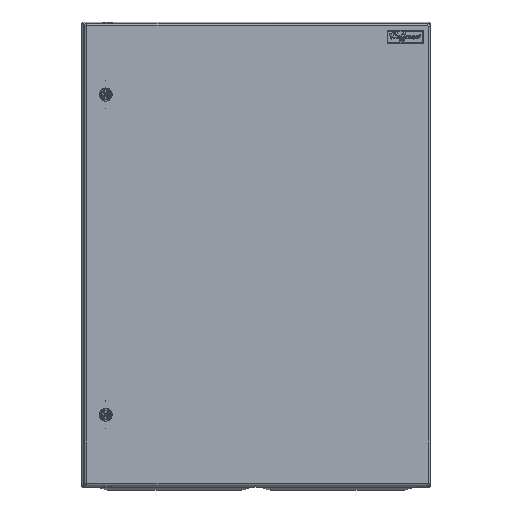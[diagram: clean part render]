
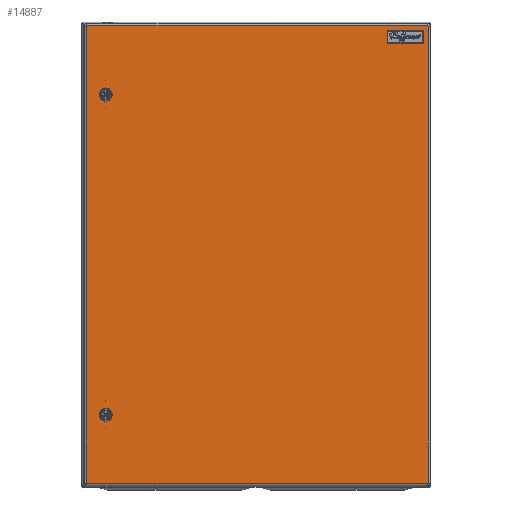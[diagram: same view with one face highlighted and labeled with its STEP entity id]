
A CAD part, top view. The second image highlights one B-rep face of the part: STEP entity #14887.
In plain terms, the highlighted planar face has unit normal (0, 0, 1).
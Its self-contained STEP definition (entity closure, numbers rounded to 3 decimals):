
#14371 = VERTEX_POINT ( 'NONE', #50379 ) ;
#14373 = EDGE_CURVE ( 'NONE', #14371, #14374, #50378, .T. ) ;
#14374 = VERTEX_POINT ( 'NONE', #50373 ) ;
#14386 = VERTEX_POINT ( 'NONE', #50414 ) ;
#14388 = EDGE_CURVE ( 'NONE', #14386, #14389, #50413, .T. ) ;
#14389 = VERTEX_POINT ( 'NONE', #50408 ) ;
#14548 = EDGE_CURVE ( 'NONE', #14549, #14593, #50713, .T. ) ;
#14549 = VERTEX_POINT ( 'NONE', #50708 ) ;
#14592 = EDGE_CURVE ( 'NONE', #14593, #14594, #50820, .T. ) ;
#14593 = VERTEX_POINT ( 'NONE', #50816 ) ;
#14594 = VERTEX_POINT ( 'NONE', #50815 ) ;
#14651 = EDGE_CURVE ( 'NONE', #14652, #14706, #50925, .T. ) ;
#14652 = VERTEX_POINT ( 'NONE', #50921 ) ;
#14672 = EDGE_CURVE ( 'NONE', #14673, #14780, #50956, .T. ) ;
#14673 = VERTEX_POINT ( 'NONE', #51018 ) ;
#14705 = EDGE_CURVE ( 'NONE', #14706, #14724, #51062, .T. ) ;
#14706 = VERTEX_POINT ( 'NONE', #51057 ) ;
#14717 = EDGE_CURVE ( 'NONE', #14594, #14673, #51120, .T. ) ;
#14723 = EDGE_CURVE ( 'NONE', #14724, #14549, #51103, .T. ) ;
#14724 = VERTEX_POINT ( 'NONE', #51099 ) ;
#14779 = EDGE_CURVE ( 'NONE', #14780, #14652, #51238, .T. ) ;
#14780 = VERTEX_POINT ( 'NONE', #51233 ) ;
#14887 = ADVANCED_FACE ( 'NONE', ( #51419, #51418, #51417 ), #51416, .T. ) ;
#14888 = EDGE_LOOP ( 'NONE', ( #14889, #14891 ) ) ;
#14889 = ORIENTED_EDGE ( 'NONE', *, *, #14890, .F. ) ;
#14890 = EDGE_CURVE ( 'NONE', #14374, #14371, #51474, .T. ) ;
#14891 = ORIENTED_EDGE ( 'NONE', *, *, #14373, .F. ) ;
#14936 = EDGE_LOOP ( 'NONE', ( #14937, #14939 ) ) ;
#14937 = ORIENTED_EDGE ( 'NONE', *, *, #14938, .F. ) ;
#14938 = EDGE_CURVE ( 'NONE', #14389, #14386, #51483, .T. ) ;
#14939 = ORIENTED_EDGE ( 'NONE', *, *, #14388, .F. ) ;
#14940 = EDGE_LOOP ( 'NONE', ( #14941, #14942, #14944, #14945, #14946, #14947, #14981, #14982 ) ) ;
#14941 = ORIENTED_EDGE ( 'NONE', *, *, #14779, .T. ) ;
#14942 = ORIENTED_EDGE ( 'NONE', *, *, #14651, .T. ) ;
#14944 = ORIENTED_EDGE ( 'NONE', *, *, #14705, .T. ) ;
#14945 = ORIENTED_EDGE ( 'NONE', *, *, #14723, .T. ) ;
#14946 = ORIENTED_EDGE ( 'NONE', *, *, #14548, .T. ) ;
#14947 = ORIENTED_EDGE ( 'NONE', *, *, #14592, .T. ) ;
#14981 = ORIENTED_EDGE ( 'NONE', *, *, #14717, .T. ) ;
#14982 = ORIENTED_EDGE ( 'NONE', *, *, #14672, .T. ) ;
#50373 = CARTESIAN_POINT ( 'NONE',  ( -249.189, -275.5, 1.397 ) ) ;
#50374 = DIRECTION ( 'NONE',  ( 1., 0., 0. ) ) ;
#50375 = DIRECTION ( 'NONE',  ( 0., 0., 1. ) ) ;
#50376 = CARTESIAN_POINT ( 'NONE',  ( -260.492, -275.5, 1.397 ) ) ;
#50377 = AXIS2_PLACEMENT_3D ( 'NONE', #50376, #50375, #50374 ) ;
#50378 = CIRCLE ( 'NONE', #50377, 11.303 ) ;
#50379 = CARTESIAN_POINT ( 'NONE',  ( -271.795, -275.5, 1.397 ) ) ;
#50408 = CARTESIAN_POINT ( 'NONE',  ( -249.189, 275.5, 1.397 ) ) ;
#50409 = DIRECTION ( 'NONE',  ( 1., 0., 0. ) ) ;
#50410 = DIRECTION ( 'NONE',  ( 0., 0., 1. ) ) ;
#50411 = CARTESIAN_POINT ( 'NONE',  ( -260.492, 275.5, 1.397 ) ) ;
#50412 = AXIS2_PLACEMENT_3D ( 'NONE', #50411, #50410, #50409 ) ;
#50413 = CIRCLE ( 'NONE', #50412, 11.303 ) ;
#50414 = CARTESIAN_POINT ( 'NONE',  ( -271.795, 275.5, 1.397 ) ) ;
#50708 = CARTESIAN_POINT ( 'NONE',  ( 292.992, -394.071, 1.397 ) ) ;
#50709 = DIRECTION ( 'NONE',  ( 1., 0., 0. ) ) ;
#50710 = DIRECTION ( 'NONE',  ( 0., 0., 1. ) ) ;
#50711 = CARTESIAN_POINT ( 'NONE',  ( 292.992, -392.992, 1.397 ) ) ;
#50712 = AXIS2_PLACEMENT_3D ( 'NONE', #50711, #50710, #50709 ) ;
#50713 = CIRCLE ( 'NONE', #50712, 1.079 ) ;
#50815 = CARTESIAN_POINT ( 'NONE',  ( 294.071, 392.992, 1.397 ) ) ;
#50816 = CARTESIAN_POINT ( 'NONE',  ( 294.071, -392.992, 1.397 ) ) ;
#50817 = DIRECTION ( 'NONE',  ( 0., 1., 0. ) ) ;
#50818 = VECTOR ( 'NONE', #50817, 1000. ) ;
#50819 = CARTESIAN_POINT ( 'NONE',  ( 294.071, 392.992, 1.397 ) ) ;
#50820 = LINE ( 'NONE', #50819, #50818 ) ;
#50921 = CARTESIAN_POINT ( 'NONE',  ( -294.071, 392.992, 1.397 ) ) ;
#50922 = DIRECTION ( 'NONE',  ( 0., -1., 0. ) ) ;
#50923 = VECTOR ( 'NONE', #50922, 1000. ) ;
#50924 = CARTESIAN_POINT ( 'NONE',  ( -294.071, 392.992, 1.397 ) ) ;
#50925 = LINE ( 'NONE', #50924, #50923 ) ;
#50956 = LINE ( 'NONE', #51022, #51020 ) ;
#51018 = CARTESIAN_POINT ( 'NONE',  ( 292.992, 394.071, 1.397 ) ) ;
#51019 = DIRECTION ( 'NONE',  ( -1., 0., 0. ) ) ;
#51020 = VECTOR ( 'NONE', #51019, 1000. ) ;
#51022 = CARTESIAN_POINT ( 'NONE',  ( -292.992, 394.071, 1.397 ) ) ;
#51057 = CARTESIAN_POINT ( 'NONE',  ( -294.071, -392.992, 1.397 ) ) ;
#51058 = DIRECTION ( 'NONE',  ( 1., 0., 0. ) ) ;
#51059 = DIRECTION ( 'NONE',  ( 0., 0., 1. ) ) ;
#51060 = CARTESIAN_POINT ( 'NONE',  ( -292.992, -392.992, 1.397 ) ) ;
#51061 = AXIS2_PLACEMENT_3D ( 'NONE', #51060, #51059, #51058 ) ;
#51062 = CIRCLE ( 'NONE', #51061, 1.079 ) ;
#51099 = CARTESIAN_POINT ( 'NONE',  ( -292.992, -394.071, 1.397 ) ) ;
#51100 = DIRECTION ( 'NONE',  ( 1., 0., 0. ) ) ;
#51101 = VECTOR ( 'NONE', #51100, 1000. ) ;
#51102 = CARTESIAN_POINT ( 'NONE',  ( -292.992, -394.071, 1.397 ) ) ;
#51103 = LINE ( 'NONE', #51102, #51101 ) ;
#51110 = DIRECTION ( 'NONE',  ( -1., 0., 0. ) ) ;
#51111 = DIRECTION ( 'NONE',  ( 0., 0., 1. ) ) ;
#51112 = CARTESIAN_POINT ( 'NONE',  ( 292.992, 392.992, 1.397 ) ) ;
#51113 = AXIS2_PLACEMENT_3D ( 'NONE', #51112, #51111, #51110 ) ;
#51120 = CIRCLE ( 'NONE', #51113, 1.079 ) ;
#51233 = CARTESIAN_POINT ( 'NONE',  ( -292.992, 394.071, 1.397 ) ) ;
#51234 = DIRECTION ( 'NONE',  ( 1., 0., 0. ) ) ;
#51235 = DIRECTION ( 'NONE',  ( 0., 0., 1. ) ) ;
#51236 = CARTESIAN_POINT ( 'NONE',  ( -292.992, 392.992, 1.397 ) ) ;
#51237 = AXIS2_PLACEMENT_3D ( 'NONE', #51236, #51235, #51234 ) ;
#51238 = CIRCLE ( 'NONE', #51237, 1.079 ) ;
#51412 = DIRECTION ( 'NONE',  ( 1., 0., 0. ) ) ;
#51413 = DIRECTION ( 'NONE',  ( 0., 0., 1. ) ) ;
#51414 = CARTESIAN_POINT ( 'NONE',  ( -292.992, 392.992, 1.397 ) ) ;
#51415 = AXIS2_PLACEMENT_3D ( 'NONE', #51414, #51413, #51412 ) ;
#51416 = PLANE ( 'NONE',  #51415 ) ;
#51417 = FACE_OUTER_BOUND ( 'NONE', #14940, .T. ) ;
#51418 = FACE_BOUND ( 'NONE', #14936, .T. ) ;
#51419 = FACE_BOUND ( 'NONE', #14888, .T. ) ;
#51470 = DIRECTION ( 'NONE',  ( 1., 0., 0. ) ) ;
#51471 = DIRECTION ( 'NONE',  ( 0., 0., 1. ) ) ;
#51472 = CARTESIAN_POINT ( 'NONE',  ( -260.492, -275.5, 1.397 ) ) ;
#51473 = AXIS2_PLACEMENT_3D ( 'NONE', #51472, #51471, #51470 ) ;
#51474 = CIRCLE ( 'NONE', #51473, 11.303 ) ;
#51479 = DIRECTION ( 'NONE',  ( 1., 0., 0. ) ) ;
#51480 = DIRECTION ( 'NONE',  ( 0., 0., 1. ) ) ;
#51481 = CARTESIAN_POINT ( 'NONE',  ( -260.492, 275.5, 1.397 ) ) ;
#51482 = AXIS2_PLACEMENT_3D ( 'NONE', #51481, #51480, #51479 ) ;
#51483 = CIRCLE ( 'NONE', #51482, 11.303 ) ;
